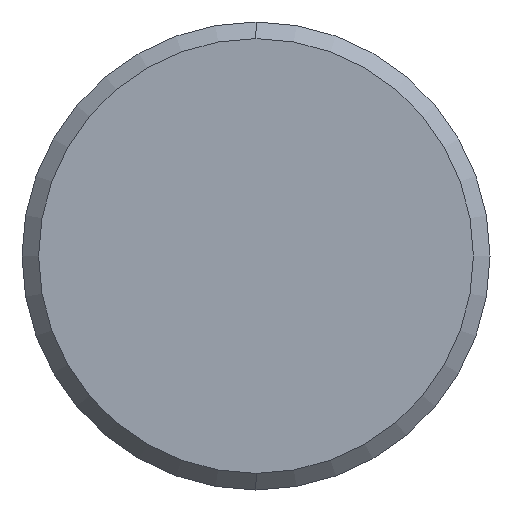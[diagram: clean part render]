
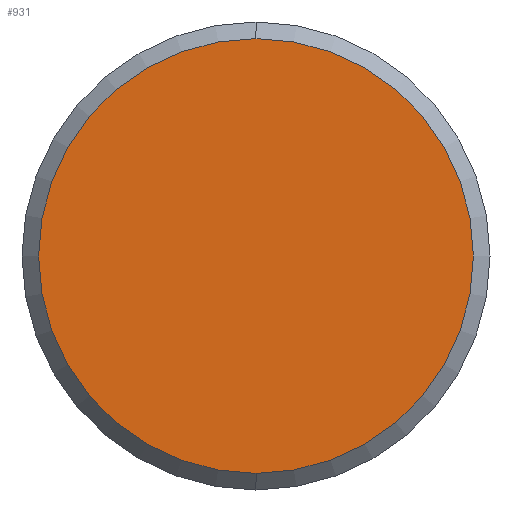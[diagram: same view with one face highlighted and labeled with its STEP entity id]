
A CAD part, left-side view. The second image highlights one B-rep face of the part: STEP entity #931.
In plain terms, the highlighted planar face has unit normal (-1, 0, 0).
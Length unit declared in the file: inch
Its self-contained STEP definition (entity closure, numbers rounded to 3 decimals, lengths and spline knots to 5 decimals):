
#30 = EDGE_CURVE ( 'NONE', #465, #460, #1110, .T. ) ;
#61 = AXIS2_PLACEMENT_3D ( 'NONE', #1296, #1297, #1298 ) ;
#117 = EDGE_CURVE ( 'NONE', #460, #465, #1095, .T. ) ;
#176 = AXIS2_PLACEMENT_3D ( 'NONE', #346, #347, #348 ) ;
#187 = AXIS2_PLACEMENT_3D ( 'NONE', #1159, #1141, #1142 ) ;
#346 = CARTESIAN_POINT ( 'NONE',  ( -5.74981, -0.24003, 0. ) ) ;
#347 = DIRECTION ( 'NONE',  ( -1., 0., 0. ) ) ;
#348 = DIRECTION ( 'NONE',  ( 0., 0., -1. ) ) ;
#437 = EDGE_LOOP ( 'NONE', ( #808, #806 ) ) ;
#460 = VERTEX_POINT ( 'NONE', #1188 ) ;
#465 = VERTEX_POINT ( 'NONE', #1181 ) ;
#806 = ORIENTED_EDGE ( 'NONE', *, *, #117, .T. ) ;
#808 = ORIENTED_EDGE ( 'NONE', *, *, #30, .T. ) ;
#931 = ADVANCED_FACE ( 'NONE', ( #1022 ), #1287, .T. ) ;
#1022 = FACE_OUTER_BOUND ( 'NONE', #437, .T. ) ;
#1095 = CIRCLE ( 'NONE', #176, 0.8175 ) ;
#1110 = CIRCLE ( 'NONE', #187, 0.8175 ) ;
#1141 = DIRECTION ( 'NONE',  ( -1., 0., 0. ) ) ;
#1142 = DIRECTION ( 'NONE',  ( 0., 0., -1. ) ) ;
#1159 = CARTESIAN_POINT ( 'NONE',  ( -5.74981, -0.24003, 0. ) ) ;
#1181 = CARTESIAN_POINT ( 'NONE',  ( -5.74981, -0.24003, -0.8175 ) ) ;
#1188 = CARTESIAN_POINT ( 'NONE',  ( -5.74981, -0.24003, 0.8175 ) ) ;
#1287 = PLANE ( 'NONE',  #61 ) ;
#1296 = CARTESIAN_POINT ( 'NONE',  ( -5.74981, -0.92403, 0. ) ) ;
#1297 = DIRECTION ( 'NONE',  ( -1., 0., 0. ) ) ;
#1298 = DIRECTION ( 'NONE',  ( 0., 0., 1. ) ) ;
